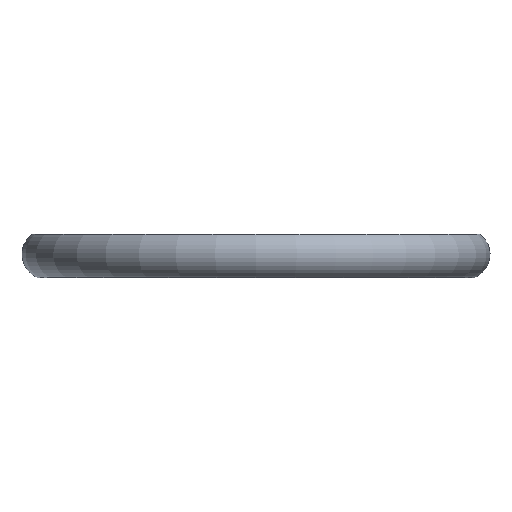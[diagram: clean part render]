
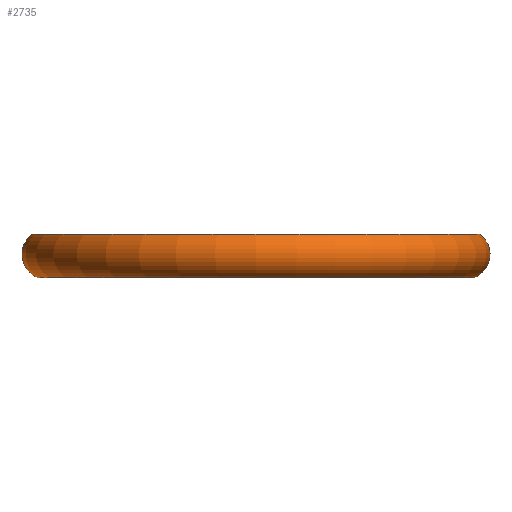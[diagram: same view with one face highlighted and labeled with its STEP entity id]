
A CAD part, front view. The second image highlights one B-rep face of the part: STEP entity #2735.
In plain terms, the highlighted toroidal (fillet/blend) face has major radius 33.847 mm and minor radius 4.072 mm.
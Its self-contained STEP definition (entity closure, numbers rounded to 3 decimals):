
#16=TOROIDAL_SURFACE('',#2927,33.847,4.072);
#21=CIRCLE('',#2901,35.433);
#22=CIRCLE('',#2902,35.433);
#40=CIRCLE('',#2925,36.3);
#41=CIRCLE('',#2926,36.3);
#42=CIRCLE('',#2928,4.072);
#315=FACE_OUTER_BOUND('',#525,.T.);
#525=EDGE_LOOP('',(#2408,#2409,#2410,#2411,#2412,#2413));
#1347=VERTEX_POINT('',#4624);
#1348=VERTEX_POINT('',#4625);
#1373=VERTEX_POINT('',#4686);
#1374=VERTEX_POINT('',#4687);
#1695=EDGE_CURVE('',#1347,#1348,#21,.T.);
#1696=EDGE_CURVE('',#1348,#1347,#22,.T.);
#1726=EDGE_CURVE('',#1373,#1374,#40,.T.);
#1727=EDGE_CURVE('',#1374,#1373,#41,.T.);
#1728=EDGE_CURVE('',#1348,#1374,#42,.T.);
#2408=ORIENTED_EDGE('',*,*,#1695,.F.);
#2409=ORIENTED_EDGE('',*,*,#1696,.F.);
#2410=ORIENTED_EDGE('',*,*,#1728,.T.);
#2411=ORIENTED_EDGE('',*,*,#1727,.T.);
#2412=ORIENTED_EDGE('',*,*,#1726,.T.);
#2413=ORIENTED_EDGE('',*,*,#1728,.F.);
#2735=ADVANCED_FACE('',(#315),#16,.T.);
#2901=AXIS2_PLACEMENT_3D('',#4626,#3511,#3512);
#2902=AXIS2_PLACEMENT_3D('',#4627,#3513,#3514);
#2925=AXIS2_PLACEMENT_3D('',#4688,#3571,#3572);
#2926=AXIS2_PLACEMENT_3D('',#4689,#3573,#3574);
#2927=AXIS2_PLACEMENT_3D('',#4690,#3575,#3576);
#2928=AXIS2_PLACEMENT_3D('',#4691,#3577,#3578);
#3511=DIRECTION('center_axis',(0.,0.,
-1.));
#3512=DIRECTION('ref_axis',(1.,0.,0.));
#3513=DIRECTION('center_axis',(0.,0.,
-1.));
#3514=DIRECTION('ref_axis',(1.,0.,0.));
#3571=DIRECTION('center_axis',(0.,0.,
-1.));
#3572=DIRECTION('ref_axis',(1.,0.,0.));
#3573=DIRECTION('center_axis',(0.,0.,
-1.));
#3574=DIRECTION('ref_axis',(1.,0.,0.));
#3575=DIRECTION('center_axis',(0.,0.,
-1.));
#3576=DIRECTION('ref_axis',(-1.,0.,0.));
#3577=DIRECTION('center_axis',(0.,-1.,0.));
#3578=DIRECTION('ref_axis',(1.,0.,0.));
#4624=CARTESIAN_POINT('',(0.,-35.433,0.));
#4625=CARTESIAN_POINT('',(35.433,0.,0.));
#4626=CARTESIAN_POINT('Origin',(0.,0.,
0.));
#4627=CARTESIAN_POINT('Origin',(0.,0.,
0.));
#4686=CARTESIAN_POINT('',(0.,-36.3,7.));
#4687=CARTESIAN_POINT('',(36.3,0.,7.));
#4688=CARTESIAN_POINT('Origin',(0.,0.,
7.));
#4689=CARTESIAN_POINT('Origin',(0.,0.,
7.));
#4690=CARTESIAN_POINT('Origin',(0.,0.,
3.75));
#4691=CARTESIAN_POINT('Origin',(33.847,0.,
3.75));
